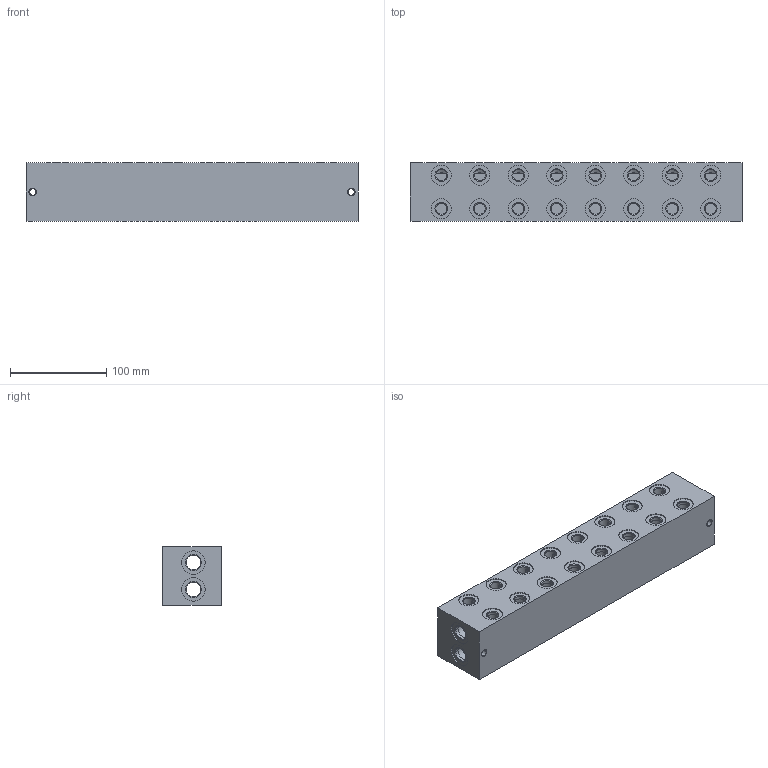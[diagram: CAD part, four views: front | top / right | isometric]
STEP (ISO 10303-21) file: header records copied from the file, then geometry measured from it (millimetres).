
FILE_DESCRIPTION((''),'2;1');
FILE_NAME('760_6880','2015-11-27T',('Ahcz.brigadnik05'),(''),'PRO/ENGINEER BY PARAMETRIC TECHNOLOGY CORPORATION, 2015110','PRO/ENGINEER BY PARAMETRIC TECHNOLOGY CORPORATION, 2015110','');
FILE_SCHEMA(('AUTOMOTIVE_DESIGN { 1 0 10303 214 1 1 1 1 }'));
Length unit declared in the file: millimetre
Products named in the file (1): 760_6880
Bounding box: 345 x 61 x 61 mm (x, y, z)
Volume: 479258.4 mm3; surface area: 188205 mm2
Topology: 1 solids, 55 shells, 479 faces, 2437 edges, 2362 vertices
Faces by surface type: cylinder 338, plane 90, cone 51
Entity records: 26839 total; most frequent: CARTESIAN_POINT 5661, DIRECTION 4026, ORIENTED_EDGE 2442, VECTOR 1558, LINE 1558, EDGE_CURVE 1329, AXIS2_PLACEMENT_3D 1234, TRIMMED_CURVE 1107
